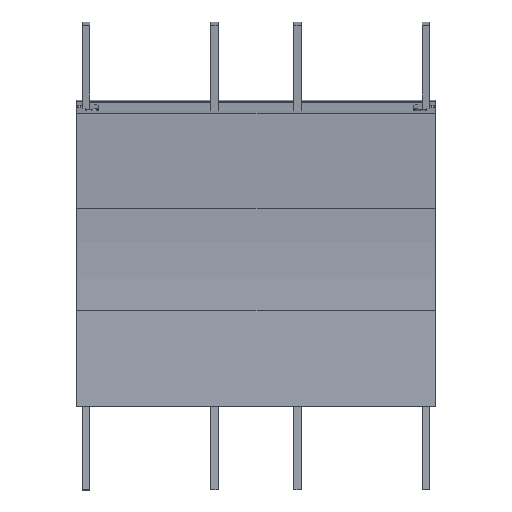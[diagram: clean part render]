
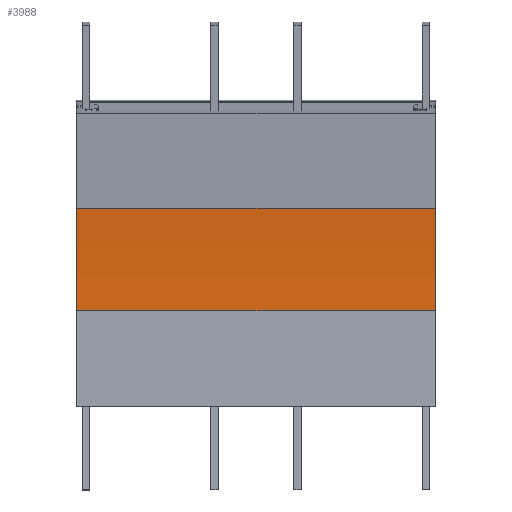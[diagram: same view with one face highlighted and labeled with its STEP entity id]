
A CAD part, top view. The second image highlights one B-rep face of the part: STEP entity #3988.
In plain terms, the highlighted cylindrical face has radius 703.5 mm (diameter 1407 mm), a partial arc.
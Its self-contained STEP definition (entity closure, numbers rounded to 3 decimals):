
#295 = CIRCLE ( 'NONE', #8032, 703.5 ) ;
#499 = DIRECTION ( 'NONE',  ( -1., 0., 0. ) ) ;
#630 = EDGE_CURVE ( 'NONE', #9713, #1184, #295, .T. ) ;
#748 = VERTEX_POINT ( 'NONE', #4515 ) ;
#1184 = VERTEX_POINT ( 'NONE', #8720 ) ;
#1249 = CIRCLE ( 'NONE', #2394, 703.5 ) ;
#1324 = CARTESIAN_POINT ( 'NONE',  ( 150., 80., 46.5 ) ) ;
#1695 = LINE ( 'NONE', #1745, #8399 ) ;
#1745 = CARTESIAN_POINT ( 'NONE',  ( -150., 165.735, 51.744 ) ) ;
#1838 = ORIENTED_EDGE ( 'NONE', *, *, #7491, .F. ) ;
#1885 = CARTESIAN_POINT ( 'NONE',  ( 150., 80., 750. ) ) ;
#2091 = DIRECTION ( 'NONE',  ( -1., 0., 0. ) ) ;
#2363 = DIRECTION ( 'NONE',  ( -1., 0., 0. ) ) ;
#2394 = AXIS2_PLACEMENT_3D ( 'NONE', #1885, #4265, #5814 ) ;
#2871 = CARTESIAN_POINT ( 'NONE',  ( 0., 80., 750. ) ) ;
#2956 = CARTESIAN_POINT ( 'NONE',  ( -150., 80., 750. ) ) ;
#3180 = CARTESIAN_POINT ( 'NONE',  ( -150., 165.735, 51.744 ) ) ;
#3988 = ADVANCED_FACE ( 'NONE', ( #8433 ), #10054, .F. ) ;
#4265 = DIRECTION ( 'NONE',  ( -1., 0., 0. ) ) ;
#4515 = CARTESIAN_POINT ( 'NONE',  ( 150., 165.735, 51.744 ) ) ;
#4571 = DIRECTION ( 'NONE',  ( 0., 0.122, -0.993 ) ) ;
#5533 = EDGE_CURVE ( 'NONE', #748, #5637, #1249, .T. ) ;
#5637 = VERTEX_POINT ( 'NONE', #1324 ) ;
#5731 = ORIENTED_EDGE ( 'NONE', *, *, #9656, .T. ) ;
#5814 = DIRECTION ( 'NONE',  ( 0., 0.122, -0.993 ) ) ;
#5868 = EDGE_LOOP ( 'NONE', ( #1838, #5969, #5731, #10063 ) ) ;
#5969 = ORIENTED_EDGE ( 'NONE', *, *, #5533, .F. ) ;
#6838 = LINE ( 'NONE', #9225, #8957 ) ;
#6973 = DIRECTION ( 'NONE',  ( 0., 0., 1. ) ) ;
#7491 = EDGE_CURVE ( 'NONE', #5637, #1184, #6838, .T. ) ;
#7748 = DIRECTION ( 'NONE',  ( -1., 0., 0. ) ) ;
#8032 = AXIS2_PLACEMENT_3D ( 'NONE', #2956, #2091, #4571 ) ;
#8399 = VECTOR ( 'NONE', #2363, 1000. ) ;
#8433 = FACE_OUTER_BOUND ( 'NONE', #5868, .T. ) ;
#8720 = CARTESIAN_POINT ( 'NONE',  ( -150., 80., 46.5 ) ) ;
#8957 = VECTOR ( 'NONE', #499, 1000. ) ;
#9225 = CARTESIAN_POINT ( 'NONE',  ( -150., 80., 46.5 ) ) ;
#9656 = EDGE_CURVE ( 'NONE', #748, #9713, #1695, .T. ) ;
#9713 = VERTEX_POINT ( 'NONE', #3180 ) ;
#9812 = AXIS2_PLACEMENT_3D ( 'NONE', #2871, #7748, #6973 ) ;
#10054 = CYLINDRICAL_SURFACE ( 'NONE', #9812, 703.5 ) ;
#10063 = ORIENTED_EDGE ( 'NONE', *, *, #630, .T. ) ;
